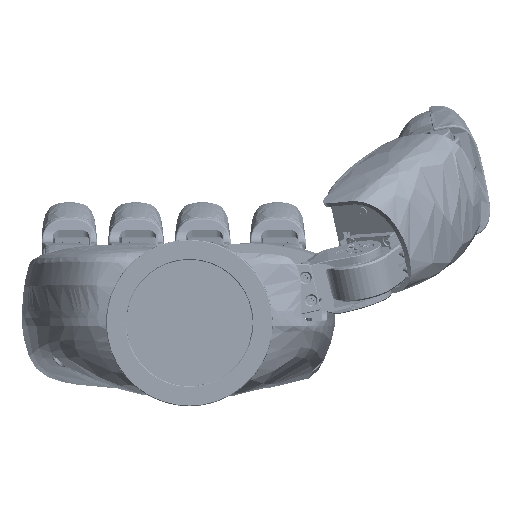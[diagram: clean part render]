
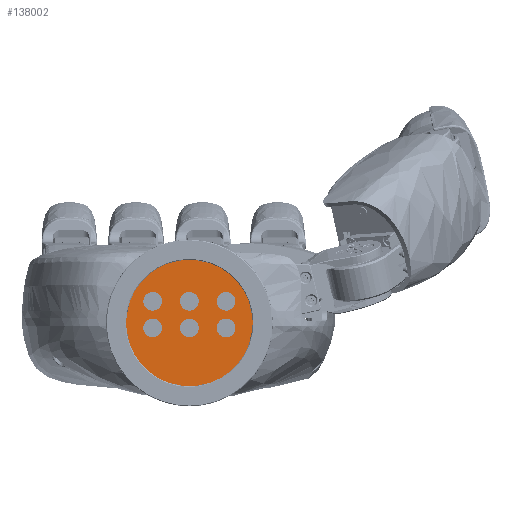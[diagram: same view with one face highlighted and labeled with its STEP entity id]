
A CAD part, front view. The second image highlights one B-rep face of the part: STEP entity #138002.
In plain terms, the highlighted planar face has unit normal (0, -1, 0).
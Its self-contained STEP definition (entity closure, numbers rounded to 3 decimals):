
#13419 = CARTESIAN_POINT ( 'NONE',  ( 0., 13., -4.3 ) ) ;
#18077 = CARTESIAN_POINT ( 'NONE',  ( 11., 13., -1.5 ) ) ;
#19345 = DIRECTION ( 'NONE',  ( 0., -1., 0. ) ) ;
#21543 = CARTESIAN_POINT ( 'NONE',  ( 11., 13., 6.5 ) ) ;
#32389 = DIRECTION ( 'NONE',  ( 0., -1., 0. ) ) ;
#34304 = VERTEX_POINT ( 'NONE', #165611 ) ;
#35895 = CARTESIAN_POINT ( 'NONE',  ( 0., 13., -1.5 ) ) ;
#41932 = EDGE_LOOP ( 'NONE', ( #67279, #185666 ) ) ;
#42908 = ORIENTED_EDGE ( 'NONE', *, *, #300562, .F. ) ;
#43964 = EDGE_CURVE ( 'NONE', #428513, #198218, #219054, .T. ) ;
#45746 = ORIENTED_EDGE ( 'NONE', *, *, #307996, .F. ) ;
#46141 = CIRCLE ( 'NONE', #90855, 19. ) ;
#49136 = CARTESIAN_POINT ( 'NONE',  ( -11., 13., 6.5 ) ) ;
#64124 = AXIS2_PLACEMENT_3D ( 'NONE', #332437, #226686, #448666 ) ;
#67279 = ORIENTED_EDGE ( 'NONE', *, *, #221283, .F. ) ;
#68547 = EDGE_CURVE ( 'NONE', #329773, #483573, #245462, .T. ) ;
#77661 = CIRCLE ( 'NONE', #449308, 2.8 ) ;
#82284 = AXIS2_PLACEMENT_3D ( 'NONE', #392752, #19345, #177920 ) ;
#90855 = AXIS2_PLACEMENT_3D ( 'NONE', #557062, #187125, #130725 ) ;
#92075 = DIRECTION ( 'NONE',  ( -1., 0., 0. ) ) ;
#102026 = ORIENTED_EDGE ( 'NONE', *, *, #119364, .F. ) ;
#103292 = DIRECTION ( 'NONE',  ( -1., 0., 0. ) ) ;
#119364 = EDGE_CURVE ( 'NONE', #670691, #684811, #598987, .T. ) ;
#130523 = VERTEX_POINT ( 'NONE', #525915 ) ;
#130725 = DIRECTION ( 'NONE',  ( 0., 0., -1. ) ) ;
#138002 = ADVANCED_FACE ( 'NONE', ( #604045, #336356, #611049, #283535, #498458, #230586, #660356 ), #237535, .F. ) ;
#138560 = CIRCLE ( 'NONE', #82284, 2.8 ) ;
#145775 = CARTESIAN_POINT ( 'NONE',  ( 0., 13., 0. ) ) ;
#146476 = DIRECTION ( 'NONE',  ( 0., 0., -1. ) ) ;
#151206 = CARTESIAN_POINT ( 'NONE',  ( -11., 13., 3.7 ) ) ;
#153156 = CIRCLE ( 'NONE', #456996, 2.8 ) ;
#165611 = CARTESIAN_POINT ( 'NONE',  ( -11., 13., 1.3 ) ) ;
#176671 = DIRECTION ( 'NONE',  ( -1., 0., 0. ) ) ;
#177920 = DIRECTION ( 'NONE',  ( -1., 0., 0. ) ) ;
#178655 = CARTESIAN_POINT ( 'NONE',  ( 0., 13., 1.3 ) ) ;
#184258 = CIRCLE ( 'NONE', #430610, 2.8 ) ;
#185666 = ORIENTED_EDGE ( 'NONE', *, *, #648475, .F. ) ;
#187125 = DIRECTION ( 'NONE',  ( 0., 1., 0. ) ) ;
#194047 = CIRCLE ( 'NONE', #587628, 2.8 ) ;
#198218 = VERTEX_POINT ( 'NONE', #226432 ) ;
#204091 = EDGE_CURVE ( 'NONE', #373401, #658300, #77661, .T. ) ;
#211707 = AXIS2_PLACEMENT_3D ( 'NONE', #395000, #500777, #176671 ) ;
#215872 = ORIENTED_EDGE ( 'NONE', *, *, #433396, .F. ) ;
#219054 = CIRCLE ( 'NONE', #545549, 2.8 ) ;
#221283 = EDGE_CURVE ( 'NONE', #643203, #130523, #266209, .T. ) ;
#226432 = CARTESIAN_POINT ( 'NONE',  ( 11., 13., 3.7 ) ) ;
#226686 = DIRECTION ( 'NONE',  ( 0., -1., 0. ) ) ;
#230586 = FACE_BOUND ( 'NONE', #578416, .T. ) ;
#237535 = PLANE ( 'NONE',  #624123 ) ;
#238964 = VERTEX_POINT ( 'NONE', #364406 ) ;
#245462 = CIRCLE ( 'NONE', #211707, 2.8 ) ;
#251499 = DIRECTION ( 'NONE',  ( 0., 1., 0. ) ) ;
#252194 = CARTESIAN_POINT ( 'NONE',  ( 0., 13., 0. ) ) ;
#257408 = EDGE_LOOP ( 'NONE', ( #215872, #42908 ) ) ;
#266209 = CIRCLE ( 'NONE', #64124, 2.8 ) ;
#272002 = CARTESIAN_POINT ( 'NONE',  ( -11., 13., 9.3 ) ) ;
#283535 = FACE_BOUND ( 'NONE', #545404, .T. ) ;
#284318 = CARTESIAN_POINT ( 'NONE',  ( -11., 13., -4.3 ) ) ;
#285751 = CIRCLE ( 'NONE', #522214, 19. ) ;
#286028 = EDGE_CURVE ( 'NONE', #658300, #373401, #687183, .T. ) ;
#286513 = CARTESIAN_POINT ( 'NONE',  ( 11., 13., 9.3 ) ) ;
#297886 = CIRCLE ( 'NONE', #523258, 2.8 ) ;
#299863 = DIRECTION ( 'NONE',  ( 0., -1., 0. ) ) ;
#300562 = EDGE_CURVE ( 'NONE', #668049, #238964, #46141, .T. ) ;
#304099 = EDGE_LOOP ( 'NONE', ( #102026, #536926 ) ) ;
#307996 = EDGE_CURVE ( 'NONE', #198218, #428513, #297886, .T. ) ;
#312758 = ORIENTED_EDGE ( 'NONE', *, *, #68547, .F. ) ;
#325733 = EDGE_CURVE ( 'NONE', #417605, #34304, #138560, .T. ) ;
#329773 = VERTEX_POINT ( 'NONE', #151206 ) ;
#332437 = CARTESIAN_POINT ( 'NONE',  ( 0., 13., 6.5 ) ) ;
#336356 = FACE_BOUND ( 'NONE', #304099, .T. ) ;
#345550 = DIRECTION ( 'NONE',  ( -1., 0., 0. ) ) ;
#345569 = DIRECTION ( 'NONE',  ( 0., -1., 0. ) ) ;
#348865 = ORIENTED_EDGE ( 'NONE', *, *, #286028, .F. ) ;
#353095 = EDGE_LOOP ( 'NONE', ( #348865, #627366 ) ) ;
#364406 = CARTESIAN_POINT ( 'NONE',  ( 0., 13., 19. ) ) ;
#370094 = CARTESIAN_POINT ( 'NONE',  ( 0., 13., 9.3 ) ) ;
#370244 = DIRECTION ( 'NONE',  ( 0., -1., 0. ) ) ;
#373401 = VERTEX_POINT ( 'NONE', #13419 ) ;
#373681 = AXIS2_PLACEMENT_3D ( 'NONE', #18077, #345569, #451415 ) ;
#392752 = CARTESIAN_POINT ( 'NONE',  ( -11., 13., -1.5 ) ) ;
#395000 = CARTESIAN_POINT ( 'NONE',  ( -11., 13., 6.5 ) ) ;
#407069 = DIRECTION ( 'NONE',  ( 0., -1., 0. ) ) ;
#410079 = EDGE_CURVE ( 'NONE', #483573, #329773, #194047, .T. ) ;
#414863 = EDGE_LOOP ( 'NONE', ( #477104, #312758 ) ) ;
#417605 = VERTEX_POINT ( 'NONE', #284318 ) ;
#418970 = DIRECTION ( 'NONE',  ( -1., 0., 0. ) ) ;
#428513 = VERTEX_POINT ( 'NONE', #286513 ) ;
#430610 = AXIS2_PLACEMENT_3D ( 'NONE', #567573, #299863, #676713 ) ;
#433396 = EDGE_CURVE ( 'NONE', #238964, #668049, #285751, .T. ) ;
#448666 = DIRECTION ( 'NONE',  ( -1., 0., 0. ) ) ;
#449308 = AXIS2_PLACEMENT_3D ( 'NONE', #526287, #473356, #103292 ) ;
#451396 = CARTESIAN_POINT ( 'NONE',  ( -11., 13., -1.5 ) ) ;
#451415 = DIRECTION ( 'NONE',  ( -1., 0., 0. ) ) ;
#451564 = AXIS2_PLACEMENT_3D ( 'NONE', #35895, #32389, #92075 ) ;
#456996 = AXIS2_PLACEMENT_3D ( 'NONE', #462203, #370244, #644882 ) ;
#462203 = CARTESIAN_POINT ( 'NONE',  ( 0., 13., 6.5 ) ) ;
#463665 = DIRECTION ( 'NONE',  ( 0., 1., 0. ) ) ;
#472651 = CARTESIAN_POINT ( 'NONE',  ( 0., 13., -19. ) ) ;
#473356 = DIRECTION ( 'NONE',  ( 0., -1., 0. ) ) ;
#475387 = DIRECTION ( 'NONE',  ( 0., -1., 0. ) ) ;
#477104 = ORIENTED_EDGE ( 'NONE', *, *, #410079, .F. ) ;
#483573 = VERTEX_POINT ( 'NONE', #272002 ) ;
#488093 = AXIS2_PLACEMENT_3D ( 'NONE', #451396, #606314, #345550 ) ;
#490484 = ORIENTED_EDGE ( 'NONE', *, *, #503949, .F. ) ;
#498458 = FACE_BOUND ( 'NONE', #41932, .T. ) ;
#500777 = DIRECTION ( 'NONE',  ( 0., -1., 0. ) ) ;
#503949 = EDGE_CURVE ( 'NONE', #34304, #417605, #510716, .T. ) ;
#508821 = DIRECTION ( 'NONE',  ( 0., 0., -1. ) ) ;
#509322 = CARTESIAN_POINT ( 'NONE',  ( 11., 13., 6.5 ) ) ;
#510716 = CIRCLE ( 'NONE', #488093, 2.8 ) ;
#522214 = AXIS2_PLACEMENT_3D ( 'NONE', #252194, #463665, #146476 ) ;
#523258 = AXIS2_PLACEMENT_3D ( 'NONE', #21543, #528486, #525015 ) ;
#525015 = DIRECTION ( 'NONE',  ( -1., 0., 0. ) ) ;
#525915 = CARTESIAN_POINT ( 'NONE',  ( 0., 13., 3.7 ) ) ;
#526287 = CARTESIAN_POINT ( 'NONE',  ( 0., 13., -1.5 ) ) ;
#528486 = DIRECTION ( 'NONE',  ( 0., -1., 0. ) ) ;
#536926 = ORIENTED_EDGE ( 'NONE', *, *, #558535, .F. ) ;
#538735 = CARTESIAN_POINT ( 'NONE',  ( 11., 13., -4.3 ) ) ;
#542697 = ORIENTED_EDGE ( 'NONE', *, *, #43964, .F. ) ;
#545404 = EDGE_LOOP ( 'NONE', ( #490484, #682200 ) ) ;
#545549 = AXIS2_PLACEMENT_3D ( 'NONE', #509322, #407069, #572499 ) ;
#557062 = CARTESIAN_POINT ( 'NONE',  ( 0., 13., 0. ) ) ;
#558535 = EDGE_CURVE ( 'NONE', #684811, #670691, #184258, .T. ) ;
#567573 = CARTESIAN_POINT ( 'NONE',  ( 11., 13., -1.5 ) ) ;
#572499 = DIRECTION ( 'NONE',  ( -1., 0., 0. ) ) ;
#578416 = EDGE_LOOP ( 'NONE', ( #542697, #45746 ) ) ;
#587628 = AXIS2_PLACEMENT_3D ( 'NONE', #49136, #475387, #418970 ) ;
#598987 = CIRCLE ( 'NONE', #373681, 2.8 ) ;
#604045 = FACE_OUTER_BOUND ( 'NONE', #257408, .T. ) ;
#606314 = DIRECTION ( 'NONE',  ( 0., -1., 0. ) ) ;
#611049 = FACE_BOUND ( 'NONE', #353095, .T. ) ;
#624123 = AXIS2_PLACEMENT_3D ( 'NONE', #145775, #251499, #508821 ) ;
#627366 = ORIENTED_EDGE ( 'NONE', *, *, #204091, .F. ) ;
#643203 = VERTEX_POINT ( 'NONE', #370094 ) ;
#644882 = DIRECTION ( 'NONE',  ( -1., 0., 0. ) ) ;
#648475 = EDGE_CURVE ( 'NONE', #130523, #643203, #153156, .T. ) ;
#658300 = VERTEX_POINT ( 'NONE', #178655 ) ;
#660356 = FACE_BOUND ( 'NONE', #414863, .T. ) ;
#668049 = VERTEX_POINT ( 'NONE', #472651 ) ;
#670691 = VERTEX_POINT ( 'NONE', #674768 ) ;
#674768 = CARTESIAN_POINT ( 'NONE',  ( 11., 13., 1.3 ) ) ;
#676713 = DIRECTION ( 'NONE',  ( -1., 0., 0. ) ) ;
#682200 = ORIENTED_EDGE ( 'NONE', *, *, #325733, .F. ) ;
#684811 = VERTEX_POINT ( 'NONE', #538735 ) ;
#687183 = CIRCLE ( 'NONE', #451564, 2.8 ) ;
